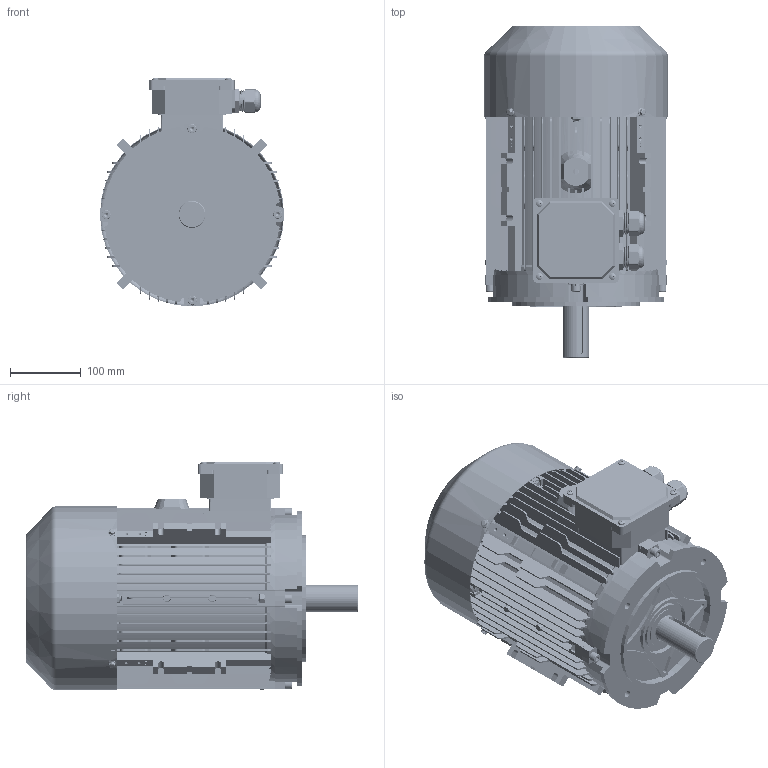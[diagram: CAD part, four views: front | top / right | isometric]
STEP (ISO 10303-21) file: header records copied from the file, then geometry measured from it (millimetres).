
FILE_DESCRIPTION (( 'STEP AP203' ), '1' );
FILE_NAME ('ME3-132S B14B 3D.STEP', '2024-07-27T02:18:25', ( 'User' ), ( 'China' ), 'SwSTEP 2.0', 'SolidWorks 2018', '' );
FILE_SCHEMA (( 'CONFIG_CONTROL_DESIGN' ));
Length unit declared in the file: millimetre
Products named in the file (18): ME3-132S B14B   3D; spring lock washers--normal type gb_GB_FASTENER_WASHER_SW 8; ME3-132 B3傷裔; hexagon socket head cap screws gb_GB_FASTENER_SCREWS_HSHCS M8X30-S; deep groove ball bearings gb_Rolling bearings 6308 GB 276-94; ME3-132瑞欶; ME3-132S蛌粣; hex flange bolts-heavy grade b gb_GB_FASTENER_BOLT_HFBB M5X10-S; MS112-132 諉盄碟釱; cross recessed pan head screws gb_GB_CROSS_SCREWS_TYPE1 M5X8-8  H type-S; M24 蹟杶; MS112-132諉盄碟裔; M24 蹟杶簸; 40X58X7蚐猾; hexagon socket head cap screws gb_GB_FASTENER_SCREWS_HSHCS M8X40-S; ME3-132 B14B傷裔; hex nuts-style normal-grades ab gb_GB_HEXAGON_TYPE10 M8X1-S; ME3-132S儂褲
Assembly tree (45 placements, depth 2):
  ME3-132S B14B   3D
    ME3-132S儂褲
    ME3-132 B3傷裔
    deep groove ball bearings gb_Rolling bearings 6308 GB 276-94  x2
    ME3-132S蛌粣
    MS112-132 諉盄碟釱
    M24 蹟杶  x2
    M24 蹟杶簸  x2
    hexagon socket head cap screws gb_GB_FASTENER_SCREWS_HSHCS M8X40-S  x7
    hex nuts-style normal-grades ab gb_GB_HEXAGON_TYPE10 M8X1-S  x7
    spring lock washers--normal type gb_GB_FASTENER_WASHER_SW 8  x4
    hexagon socket head cap screws gb_GB_FASTENER_SCREWS_HSHCS M8X30-S
    ME3-132瑞欶
    hex flange bolts-heavy grade b gb_GB_FASTENER_BOLT_HFBB M5X10-S  x4
    cross recessed pan head screws gb_GB_CROSS_SCREWS_TYPE1 M5X8-8  H type-S  x8
    MS112-132諉盄碟裔
    40X58X7蚐猾
    ME3-132 B14B傷裔
Bounding box: 259.6 x 467.96 x 322.8 mm (x, y, z)
Volume: 3412290.1 mm3; surface area: 1668513.1 mm2
Topology: 47 solids, 48 shells, 6830 faces, 16888 edges, 10126 vertices
Faces by surface type: cone 2414, plane 2189, cylinder 1883, torus 224, sphere 76, bspline 44
Entity records: 130436 total; most frequent: CARTESIAN_POINT 33540, ORIENTED_EDGE 20268, DIRECTION 18901, EDGE_CURVE 10134, VERTEX_POINT 6472, AXIS2_PLACEMENT_3D 6316, VECTOR 6269, LINE 6269
